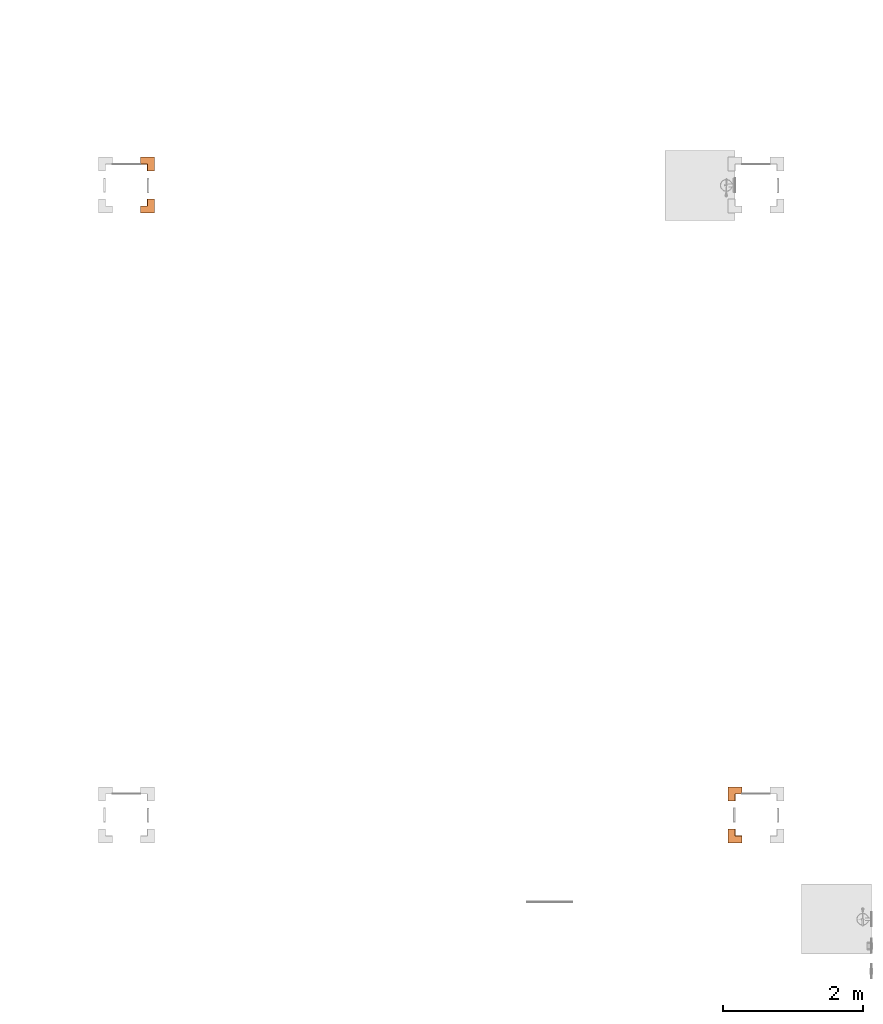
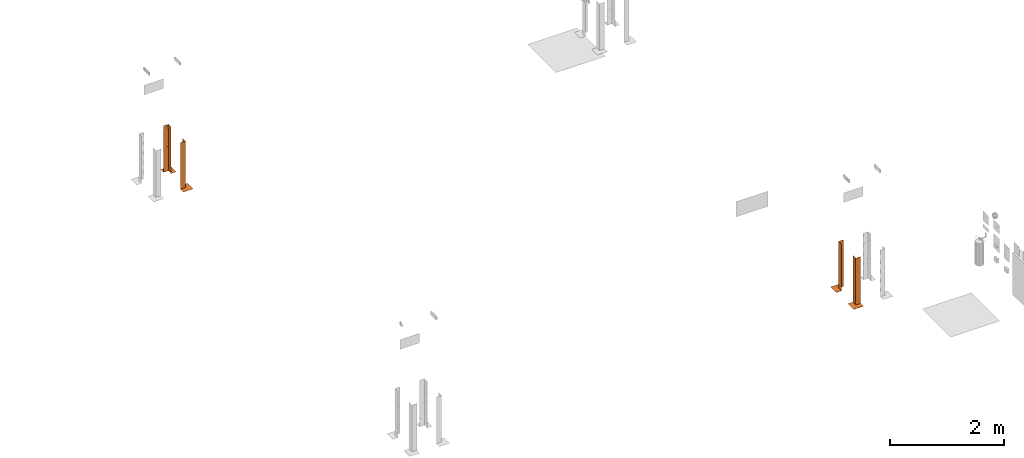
# One storey, part 9 of 119: 4 proxies.
"""IFC2X3 building model written with IfcOpenShell, lengths in metres."""

from ifc_helpers import new_model, entity, si_unit, converted_unit, derived_unit, direction, frame, origin, place, context, subcontext, project, spatial, faceted_brep, source, transform, mapped, material, material_list, type_object, type_shapes, element, save


model = new_model("IFC2X3")

# Units and contexts
model_context = context("Model", 3, precision=1e-05, world=origin(), true_north=direction((6.12303176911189e-17, 1.0)))
body_context = subcontext(model_context, "Body", "Model", "MODEL_VIEW")
ifc_project = project(units=[si_unit("LENGTHUNIT", "METRE"), si_unit("AREAUNIT", "SQUARE_METRE"), si_unit("VOLUMEUNIT", "CUBIC_METRE"), converted_unit("PLANEANGLEUNIT", "DEGREE", entity("IfcRatioMeasure", 0.0174532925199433), si_unit("PLANEANGLEUNIT", "RADIAN"), dimensions=[0, 0, 0, 0, 0, 0, 0]), si_unit("MASSUNIT", "GRAM", prefix="KILO"), derived_unit("MASSDENSITYUNIT", [(si_unit("MASSUNIT", "GRAM", prefix="KILO"), 1), (si_unit("LENGTHUNIT", "METRE"), -3)]), derived_unit("MOMENTOFINERTIAUNIT", [(si_unit("LENGTHUNIT", "METRE"), 4)]), si_unit("TIMEUNIT", "SECOND"), si_unit("FREQUENCYUNIT", "HERTZ"), si_unit("THERMODYNAMICTEMPERATUREUNIT", "DEGREE_CELSIUS"), derived_unit("THERMALTRANSMITTANCEUNIT", [(si_unit("MASSUNIT", "GRAM", prefix="KILO"), 1), (si_unit("THERMODYNAMICTEMPERATUREUNIT", "KELVIN"), -1), (si_unit("TIMEUNIT", "SECOND"), -3)]), derived_unit("VOLUMETRICFLOWRATEUNIT", [(si_unit("LENGTHUNIT", "METRE"), 3), (si_unit("TIMEUNIT", "SECOND"), -1)]), si_unit("ELECTRICCURRENTUNIT", "AMPERE"), si_unit("ELECTRICVOLTAGEUNIT", "VOLT"), si_unit("POWERUNIT", "WATT"), si_unit("FORCEUNIT", "NEWTON", prefix="KILO"), si_unit("ILLUMINANCEUNIT", "LUX"), si_unit("LUMINOUSFLUXUNIT", "LUMEN"), si_unit("LUMINOUSINTENSITYUNIT", "CANDELA"), derived_unit("USERDEFINED", [(si_unit("MASSUNIT", "GRAM", prefix="KILO"), -1), (si_unit("LENGTHUNIT", "METRE"), -2), (si_unit("TIMEUNIT", "SECOND"), 3), (si_unit("LUMINOUSFLUXUNIT", "LUMEN"), 1)]), derived_unit("LINEARVELOCITYUNIT", [(si_unit("LENGTHUNIT", "METRE"), 1), (si_unit("TIMEUNIT", "SECOND"), -1)]), si_unit("PRESSUREUNIT", "PASCAL"), derived_unit("USERDEFINED", [(si_unit("LENGTHUNIT", "METRE"), -2), (si_unit("MASSUNIT", "GRAM", prefix="KILO"), 1), (si_unit("TIMEUNIT", "SECOND"), -2)]), derived_unit("LINEARFORCEUNIT", [(si_unit("MASSUNIT", "GRAM", prefix="KILO"), 1), (si_unit("LENGTHUNIT", "METRE"), 1), (si_unit("TIMEUNIT", "SECOND"), -2), (si_unit("LENGTHUNIT", "METRE"), -1)]), derived_unit("PLANARFORCEUNIT", [(si_unit("MASSUNIT", "GRAM", prefix="KILO"), 1), (si_unit("LENGTHUNIT", "METRE"), 1), (si_unit("TIMEUNIT", "SECOND"), -2), (si_unit("LENGTHUNIT", "METRE"), -2)])], contexts=[model_context])

# Site, building, storey
site_placement = place(None, origin())
site = spatial("IfcSite", under=ifc_project, at=site_placement, Name="Default", CompositionType="ELEMENT")
building_placement = place(site_placement, origin())
building = spatial("IfcBuilding", under=site, at=building_placement, CompositionType="ELEMENT")
storey_placement = place(building_placement, origin())
storey = spatial("IfcBuildingStorey", under=building, at=storey_placement, Name="PAV. 01 - TÉRREO", CompositionType="ELEMENT", Elevation=0.0)

# Proxies
ifc_material_1 = material(Name="Plastico Amarelo")
ifc_material_2 = material(Name="Plastico Preto")
ifc_material_3 = material(Name="O_01_amarelo")
ifc_material_4 = material(Name="O_01_Preto")
ifc_material_list_1 = material_list([ifc_material_1, ifc_material_2, ifc_material_3, ifc_material_4])
ifc_material_list_2 = material_list([ifc_material_3, ifc_material_4, ifc_material_1])
building_element_proxy_type = type_object("IfcBuildingElementProxyType", Name="Indicação de Obstáculos:Indicador - O01 - Amarelo (ambiente interno)", PredefinedType="NOTDEFINED", material=ifc_material_list_2)
shared_shape = source(origin(), body_context, "Body", "Brep", [
    faceted_brep([(0.1, -0.0499999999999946, 0.000999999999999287), (0.0499999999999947, -0.1, 0.000999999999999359), (0.1, -0.1, 0.000999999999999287), (0.1, -0.0499999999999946, 0.0), (0.1, -0.1, 0.0), (0.0499999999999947, -0.1, 0.0)], [[[0, 1, 2]], [[3, 4, 5]], [[0, 2, 4, 3]], [[1, 0, 3, 5]], [[2, 1, 5, 4]]]),
    faceted_brep([(0.100000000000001, 0.0, 0.000999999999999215), (0.0, -0.1, 0.000999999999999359), (0.049999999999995, -0.1, 0.000999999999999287), (0.100000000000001, -0.0499999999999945, 0.000999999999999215), (0.100000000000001, 0.0, 0.0), (0.100000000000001, -0.0499999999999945, 0.0), (0.049999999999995, -0.1, 0.0), (0.0, -0.1, 0.0)], [[[0, 1, 2, 3]], [[4, 5, 6, 7]], [[0, 3, 5, 4]], [[1, 0, 4, 7]], [[3, 2, 6, 5]], [[2, 1, 7, 6]]]),
    faceted_brep([(0.049999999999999, 0.0, 0.000999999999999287), (-0.0500000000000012, -0.0999999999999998, 0.000999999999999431), (0.0, -0.1, 0.000999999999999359), (0.0999999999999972, 0.0, 0.000999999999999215), (0.049999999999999, 0.0, 0.0), (0.0999999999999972, 0.0, 0.0), (0.0, -0.1, 0.0), (-0.0500000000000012, -0.0999999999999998, 0.0)], [[[0, 1, 2, 3]], [[4, 5, 6, 7]], [[1, 0, 4, 7]], [[3, 2, 6, 5]], [[2, 1, 7, 6]], [[0, 3, 5, 4]]]),
    faceted_brep([(-0.0999999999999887, -0.0999999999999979, 0.000999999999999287), (-0.0499999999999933, -0.0999999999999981, 0.000999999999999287), (0.0499999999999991, 0.0, 0.000999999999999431), (0.0, 0.0, 0.000999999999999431), (-0.0999999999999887, -0.0999999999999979, 0.0), (0.0, 0.0, 0.0), (0.049999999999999, 0.0, 0.0), (-0.0499999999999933, -0.0999999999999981, 0.0)], [[[0, 1, 2, 3]], [[4, 5, 6, 7]], [[0, 3, 5, 4]], [[2, 1, 7, 6]], [[3, 2, 6, 5]], [[1, 0, 4, 7]]]),
    faceted_brep([(0.0, 0.0500000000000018, 0.000999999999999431), (-0.0999999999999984, -0.0500000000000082, 0.000999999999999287), (-0.099999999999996, -0.100000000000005, 0.000999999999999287), (0.0, 0.0, 0.000999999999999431), (0.0, 0.0500000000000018, 0.0), (0.0, 0.0, 0.0), (-0.099999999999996, -0.100000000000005, 0.0), (-0.0999999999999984, -0.0500000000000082, 0.0)], [[[0, 1, 2, 3]], [[4, 5, 6, 7]], [[0, 3, 5, 4]], [[1, 0, 4, 7]], [[2, 1, 7, 6]], [[3, 2, 6, 5]]]),
    faceted_brep([(-0.0999999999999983, 0.0499999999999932, 0.000999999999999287), (-0.0499999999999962, 0.1, 0.000999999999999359), (-0.100000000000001, 0.1, 0.000999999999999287), (-0.0999999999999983, 0.0499999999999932, 0.0), (-0.100000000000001, 0.1, 0.0), (-0.0499999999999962, 0.1, 0.0)], [[[0, 1, 2]], [[3, 4, 5]], [[0, 2, 4, 3]], [[1, 0, 3, 5]], [[2, 1, 5, 4]]]),
    faceted_brep([(-0.0999999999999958, 0.0, 0.000999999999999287), (0.0, 0.1, 0.000999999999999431), (-0.0499999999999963, 0.1, 0.000999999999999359), (-0.0999999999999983, 0.0499999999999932, 0.000999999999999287), (-0.0999999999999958, 0.0, 0.0), (-0.0999999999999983, 0.0499999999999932, 0.0), (-0.0499999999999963, 0.1, 0.0), (0.0, 0.1, 0.0)], [[[0, 1, 2, 3]], [[4, 5, 6, 7]], [[0, 3, 5, 4]], [[1, 0, 4, 7]], [[3, 2, 6, 5]], [[2, 1, 7, 6]]]),
    faceted_brep([(0.0, 0.050000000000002, 0.000999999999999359), (0.0, 0.1, 0.000999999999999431), (-0.0999999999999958, 0.0, 0.000999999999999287), (-0.0999999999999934, -0.0500000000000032, 0.000999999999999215), (0.0, 0.0500000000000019, 0.0), (-0.0999999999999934, -0.0500000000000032, 0.0), (-0.0999999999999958, 0.0, 0.0), (0.0, 0.1, 0.0)], [[[0, 1, 2, 3]], [[4, 5, 6, 7]], [[1, 0, 4, 7]], [[2, 1, 7, 6]], [[0, 3, 5, 4]], [[3, 2, 6, 5]]]),
    faceted_brep([(0.00200000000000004, 0.1, 1.0), (0.002, 0.00199999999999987, 0.902000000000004), (0.002, 0.00199999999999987, 0.802000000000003), (0.00200000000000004, 0.1, 0.900000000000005), (0.0, 0.1, 0.900000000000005), (0.0, 0.0, 0.800000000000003), (0.0, 0.0, 0.900000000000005), (0.0, 0.1, 1.0)], [[[0, 1, 2, 3]], [[4, 5, 6, 7]], [[4, 3, 2, 5]], [[1, 6, 5, 2]], [[6, 1, 0, 7]], [[3, 4, 7, 0]]]),
    faceted_brep([(0.00200000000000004, 0.1, 0.800000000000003), (0.002, 0.00199999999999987, 0.702000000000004), (0.002, 0.00199999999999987, 0.602000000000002), (0.00200000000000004, 0.1, 0.700000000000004), (0.0, 0.1, 0.700000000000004), (0.0, 0.0, 0.600000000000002), (0.0, 0.0, 0.700000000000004), (0.0, 0.1, 0.800000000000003)], [[[0, 1, 2, 3]], [[4, 5, 6, 7]], [[4, 3, 2, 5]], [[1, 6, 5, 2]], [[6, 1, 0, 7]], [[3, 4, 7, 0]]]),
    faceted_brep([(0.00200000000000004, 0.1, 0.600000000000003), (0.002, 0.00199999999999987, 0.502000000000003), (0.002, 0.00199999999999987, 0.402000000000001), (0.00200000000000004, 0.1, 0.500000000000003), (0.0, 0.1, 0.500000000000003), (0.0, 0.0, 0.400000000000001), (0.0, 0.0, 0.500000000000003), (0.0, 0.1, 0.600000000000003)], [[[0, 1, 2, 3]], [[4, 5, 6, 7]], [[4, 3, 2, 5]], [[1, 6, 5, 2]], [[6, 1, 0, 7]], [[3, 4, 7, 0]]]),
    faceted_brep([(0.00200000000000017, 0.0999999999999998, 0.400000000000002), (0.00200000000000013, 0.0019999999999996, 0.302000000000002), (0.00200000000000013, 0.0019999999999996, 0.202), (0.00200000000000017, 0.0999999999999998, 0.300000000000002), (0.0, 0.0999999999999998, 0.300000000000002), (0.0, 0.0, 0.2), (0.0, 0.0, 0.300000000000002), (0.0, 0.0999999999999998, 0.400000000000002)], [[[0, 1, 2, 3]], [[4, 5, 6, 7]], [[4, 3, 2, 5]], [[1, 6, 5, 2]], [[6, 1, 0, 7]], [[3, 4, 7, 0]]]),
    faceted_brep([(0.000500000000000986, 0.1, 0.900000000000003), (0.000500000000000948, 0.000499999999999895, 0.800500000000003), (0.000500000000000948, 0.00049999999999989, 0.700500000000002), (0.000500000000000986, 0.1, 0.800000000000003), (0.0, 0.1, 0.800000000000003), (0.0, 0.0, 0.700000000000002), (0.0, 0.0, 0.800000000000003), (0.0, 0.1, 0.900000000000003)], [[[0, 1, 2, 3]], [[4, 5, 6, 7]], [[4, 3, 2, 5]], [[1, 6, 5, 2]], [[6, 1, 0, 7]], [[3, 4, 7, 0]]]),
    faceted_brep([(0.000500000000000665, 0.1, 0.700000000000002), (0.000500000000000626, 0.000499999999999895, 0.600500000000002), (0.000500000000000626, 0.00049999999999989, 0.500500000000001), (0.000500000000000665, 0.1, 0.600000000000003), (0.0, 0.1, 0.600000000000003), (0.0, 0.0, 0.500000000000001), (0.0, 0.0, 0.600000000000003), (0.0, 0.1, 0.700000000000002)], [[[0, 1, 2, 3]], [[4, 5, 6, 7]], [[4, 3, 2, 5]], [[1, 6, 5, 2]], [[6, 1, 0, 7]], [[3, 4, 7, 0]]]),
    faceted_brep([(0.000500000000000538, 0.0999999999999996, 0.500000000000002), (0.000500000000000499, 0.000499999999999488, 0.400500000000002), (0.000500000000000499, 0.000499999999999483, 0.3005), (0.000500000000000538, 0.0999999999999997, 0.400000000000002), (0.0, 0.0999999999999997, 0.400000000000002), (0.0, 0.0, 0.3), (0.0, 0.0, 0.400000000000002), (0.0, 0.0999999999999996, 0.500000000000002)], [[[0, 1, 2, 3]], [[4, 5, 6, 7]], [[4, 3, 2, 5]], [[1, 6, 5, 2]], [[6, 1, 0, 7]], [[3, 4, 7, 0]]]),
    faceted_brep([(0.00499999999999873, 0.00499999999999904, 1.0), (0.00499999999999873, 0.00499999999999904, 0.904999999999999), (0.00499999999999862, 0.0999999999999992, 1.0), (0.0, 0.0, 0.899999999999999), (0.0, 0.0, 1.0), (0.0, 0.0999999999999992, 1.0)], [[[0, 1, 2]], [[3, 4, 5]], [[4, 0, 2, 5]], [[5, 2, 1, 3]], [[0, 4, 3, 1]]]),
    faceted_brep([(0.00499999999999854, 0.00499999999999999, 1.0), (0.0999999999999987, 0.00499999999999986, 1.0), (0.00499999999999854, 0.00499999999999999, 0.904999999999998), (0.0, 0.0, 0.899999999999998), (0.0999999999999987, 0.0, 1.0), (0.0, 0.0, 1.0)], [[[0, 1, 2]], [[3, 4, 5]], [[5, 4, 1, 0]], [[4, 3, 2, 1]], [[0, 2, 3, 5]]]),
    faceted_brep([(0.0999999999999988, 0.000499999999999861, 0.900000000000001), (0.0999999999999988, 0.000499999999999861, 0.800000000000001), (0.000499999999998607, 0.000499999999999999, 0.7005), (0.000499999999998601, 0.000499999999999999, 0.800500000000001), (0.0999999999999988, 0.0, 0.800000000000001), (0.0999999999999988, 0.0, 0.900000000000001), (0.0, 0.0, 0.800000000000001), (0.0, 0.0, 0.7)], [[[0, 1, 2, 3]], [[4, 5, 6, 7]], [[4, 7, 2, 1]], [[3, 2, 7, 6]], [[6, 5, 0, 3]], [[1, 0, 5, 4]]]),
    faceted_brep([(0.0999999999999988, 0.000499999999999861, 0.700000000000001), (0.0999999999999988, 0.000499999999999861, 0.600000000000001), (0.000499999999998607, 0.000499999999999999, 0.5005), (0.000499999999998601, 0.000499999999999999, 0.600500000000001), (0.0999999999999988, 0.0, 0.600000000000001), (0.0999999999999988, 0.0, 0.700000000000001), (0.0, 0.0, 0.600000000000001), (0.0, 0.0, 0.5)], [[[0, 1, 2, 3]], [[4, 5, 6, 7]], [[4, 7, 2, 1]], [[3, 2, 7, 6]], [[6, 5, 0, 3]], [[1, 0, 5, 4]]]),
    faceted_brep([(0.0999999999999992, 0.000499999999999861, 0.500000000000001), (0.0999999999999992, 0.000499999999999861, 0.400000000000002), (0.000499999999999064, 0.000499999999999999, 0.3005), (0.000499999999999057, 0.000499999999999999, 0.400500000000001), (0.0999999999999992, 0.0, 0.400000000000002), (0.0999999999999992, 0.0, 0.500000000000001), (0.0, 0.0, 0.400000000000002), (0.0, 0.0, 0.3)], [[[0, 1, 2, 3]], [[4, 5, 6, 7]], [[4, 7, 2, 1]], [[3, 2, 7, 6]], [[6, 5, 0, 3]], [[1, 0, 5, 4]]]),
    faceted_brep([(0.0999999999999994, 0.00199999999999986, 1.0), (0.0999999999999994, 0.00199999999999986, 0.900000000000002), (0.00199999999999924, 0.002, 0.802), (0.00199999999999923, 0.002, 0.902000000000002), (0.0999999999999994, 0.0, 0.900000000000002), (0.0999999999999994, 0.0, 1.0), (0.0, 0.0, 0.900000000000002), (0.0, 0.0, 0.8)], [[[0, 1, 2, 3]], [[4, 5, 6, 7]], [[4, 7, 2, 1]], [[3, 2, 7, 6]], [[6, 5, 0, 3]], [[1, 0, 5, 4]]]),
    faceted_brep([(0.0999999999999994, 0.00199999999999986, 0.800000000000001), (0.0999999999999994, 0.00199999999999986, 0.700000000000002), (0.00199999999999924, 0.002, 0.602), (0.00199999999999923, 0.002, 0.702000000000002), (0.0999999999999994, 0.0, 0.700000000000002), (0.0999999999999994, 0.0, 0.800000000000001), (0.0, 0.0, 0.700000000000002), (0.0, 0.0, 0.6)], [[[0, 1, 2, 3]], [[4, 5, 6, 7]], [[4, 7, 2, 1]], [[3, 2, 7, 6]], [[6, 5, 0, 3]], [[1, 0, 5, 4]]]),
    faceted_brep([(0.0999999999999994, 0.00199999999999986, 0.600000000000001), (0.0999999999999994, 0.00199999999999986, 0.500000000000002), (0.00199999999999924, 0.002, 0.402), (0.00199999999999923, 0.002, 0.502000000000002), (0.0999999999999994, 0.0, 0.500000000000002), (0.0999999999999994, 0.0, 0.600000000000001), (0.0, 0.0, 0.500000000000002), (0.0, 0.0, 0.4)], [[[0, 1, 2, 3]], [[4, 5, 6, 7]], [[4, 7, 2, 1]], [[3, 2, 7, 6]], [[6, 5, 0, 3]], [[1, 0, 5, 4]]]),
    faceted_brep([(0.0999999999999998, 0.00199999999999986, 0.400000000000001), (0.0999999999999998, 0.00199999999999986, 0.300000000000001), (0.00199999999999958, 0.002, 0.202), (0.00199999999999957, 0.002, 0.302000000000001), (0.0999999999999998, 0.0, 0.300000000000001), (0.0999999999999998, 0.0, 0.400000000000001), (0.0, 0.0, 0.300000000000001), (0.0, 0.0, 0.2)], [[[0, 1, 2, 3]], [[4, 5, 6, 7]], [[4, 7, 2, 1]], [[3, 2, 7, 6]], [[6, 5, 0, 3]], [[1, 0, 5, 4]]]),
    faceted_brep([(0.000500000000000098, 0.1, 0.300000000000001), (0.000500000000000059, 0.000499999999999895, 0.200500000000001), (0.000500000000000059, 0.00049999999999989, 0.1005), (0.000500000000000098, 0.1, 0.200000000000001), (0.0, 0.1, 0.200000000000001), (0.0, 0.0, 0.0999999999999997), (0.0, 0.0, 0.200000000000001), (0.0, 0.1, 0.300000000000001)], [[[0, 1, 2, 3]], [[4, 5, 6, 7]], [[4, 3, 2, 5]], [[1, 6, 5, 2]], [[6, 1, 0, 7]], [[3, 4, 7, 0]]]),
    faceted_brep([(0.00200000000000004, 0.1, 0.200000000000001), (0.002, 0.00199999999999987, 0.102000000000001), (0.002, 0.00199999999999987, 0.00199999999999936), (0.00200000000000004, 0.1, 0.100000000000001), (0.0, 0.1, 0.100000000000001), (0.0, 0.0, 0.0), (0.0, 0.0, 0.100000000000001), (0.0, 0.1, 0.200000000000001)], [[[0, 1, 2, 3]], [[4, 5, 6, 7]], [[4, 3, 2, 5]], [[1, 6, 5, 2]], [[6, 1, 0, 7]], [[3, 4, 7, 0]]]),
    faceted_brep([(0.000500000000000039, 0.1, 0.100000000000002), (0.0005, 0.000499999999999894, 0.000499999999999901), (0.0005, 0.000499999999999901, 0.0), (0.000500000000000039, 0.1, 0.0), (0.0, 0.0, 0.0), (0.0, 0.1, 0.100000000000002), (0.0, 0.1, 0.0)], [[[0, 1, 2, 3]], [[4, 5, 6]], [[3, 6, 5, 0]], [[6, 3, 2, 4]], [[4, 1, 0, 5]], [[1, 4, 2]]]),
    faceted_brep([(0.0999999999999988, 0.000499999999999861, 0.300000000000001), (0.0999999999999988, 0.000499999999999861, 0.200000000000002), (0.000499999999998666, 0.000499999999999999, 0.1005), (0.00049999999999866, 0.000499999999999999, 0.200500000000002), (0.0999999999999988, 0.0, 0.200000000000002), (0.0999999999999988, 0.0, 0.300000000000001), (0.0, 0.0, 0.200000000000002), (0.0, 0.0, 0.1)], [[[0, 1, 2, 3]], [[4, 5, 6, 7]], [[4, 7, 2, 1]], [[3, 2, 7, 6]], [[6, 5, 0, 3]], [[1, 0, 5, 4]]]),
    faceted_brep([(0.0999999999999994, 0.00199999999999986, 0.200000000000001), (0.0999999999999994, 0.00199999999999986, 0.100000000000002), (0.00199999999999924, 0.002, 0.0019999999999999), (0.00199999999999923, 0.002, 0.102000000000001), (0.0999999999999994, 0.0, 0.100000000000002), (0.0999999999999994, 0.0, 0.200000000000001), (0.0, 0.0, 0.100000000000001), (0.0, 0.0, 0.0)], [[[0, 1, 2, 3]], [[4, 5, 6, 7]], [[4, 7, 2, 1]], [[3, 2, 7, 6]], [[6, 5, 0, 3]], [[1, 0, 5, 4]]]),
    faceted_brep([(0.1, 0.000499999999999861, 0.100000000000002), (0.1, 0.000499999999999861, 0.0), (0.000499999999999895, 0.000499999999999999, 0.0), (0.000499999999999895, 0.000499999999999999, 0.000499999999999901), (0.0, 0.0, 0.0), (0.1, 0.0, 0.0), (0.1, 0.0, 0.100000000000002)], [[[0, 1, 2, 3]], [[4, 5, 6]], [[1, 0, 6, 5]], [[5, 4, 2, 1]], [[4, 6, 0, 3]], [[3, 2, 4]]]),
])
type_shapes(building_element_proxy_type, [shared_shape])
proxy_1_placement = place(storey_placement, frame((46.3738248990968, 13.6286676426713, 0.0)))
element("IfcBuildingElementProxy", 1, at=proxy_1_placement, inside=storey, type_object=building_element_proxy_type, material=ifc_material_list_1, Name="Indicação de Obstáculos:Indicador - O01 - Amarelo (ambiente interno)", ObjectType="Indicação de Obstáculos:Indicador - O01 - Amarelo (ambiente interno)", context=body_context, shape_type="MappedRepresentation", body=[
    mapped(shared_shape, transform((0.0, 0.0, 0.0), scale=1.0)),
])
ifc_material_list_3 = material_list([ifc_material_1, ifc_material_2, ifc_material_3, ifc_material_4])
proxy_2_placement = place(storey_placement, frame((46.3738248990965, 14.2286668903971, 0.0), z_axis=(0.0, 0.0, 1.0), x_axis=(0.0, -1.0, 0.0)))
element("IfcBuildingElementProxy", 2, at=proxy_2_placement, inside=storey, type_object=building_element_proxy_type, material=ifc_material_list_3, Name="Indicação de Obstáculos:Indicador - O01 - Amarelo (ambiente interno)", ObjectType="Indicação de Obstáculos:Indicador - O01 - Amarelo (ambiente interno)", context=body_context, shape_type="MappedRepresentation", body=[
    mapped(shared_shape, transform((0.0, 0.0, 0.0), scale=1.0)),
])
ifc_material_list_4 = material_list([ifc_material_1, ifc_material_2, ifc_material_3, ifc_material_4])
proxy_3_placement = place(storey_placement, frame((37.9738354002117, 22.6286563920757, 0.0), z_axis=(0.0, 0.0, 1.0), x_axis=(0.0, 1.0, 0.0)))
element("IfcBuildingElementProxy", 3, at=proxy_3_placement, inside=storey, type_object=building_element_proxy_type, material=ifc_material_list_4, Name="Indicação de Obstáculos:Indicador - O01 - Amarelo (ambiente interno)", ObjectType="Indicação de Obstáculos:Indicador - O01 - Amarelo (ambiente interno)", context=body_context, shape_type="MappedRepresentation", body=[
    mapped(shared_shape, transform((0.0, 0.0, 0.0), scale=1.0)),
])
ifc_material_list_5 = material_list([ifc_material_1, ifc_material_2, ifc_material_3, ifc_material_4])
proxy_4_placement = place(storey_placement, frame((37.9738354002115, 23.2286556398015, 0.0), z_axis=(0.0, 0.0, 1.0), x_axis=(-1.0, 0.0, 0.0)))
element("IfcBuildingElementProxy", 4, at=proxy_4_placement, inside=storey, type_object=building_element_proxy_type, material=ifc_material_list_5, Name="Indicação de Obstáculos:Indicador - O01 - Amarelo (ambiente interno)", ObjectType="Indicação de Obstáculos:Indicador - O01 - Amarelo (ambiente interno)", context=body_context, shape_type="MappedRepresentation", body=[
    mapped(shared_shape, transform((0.0, 0.0, 0.0), scale=1.0)),
])

save(model, "model.ifc")
